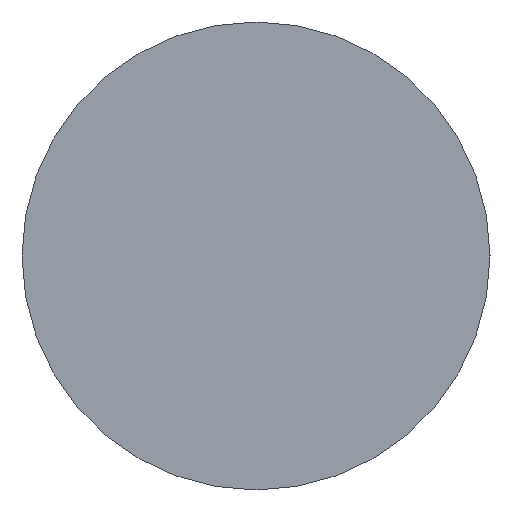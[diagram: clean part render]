
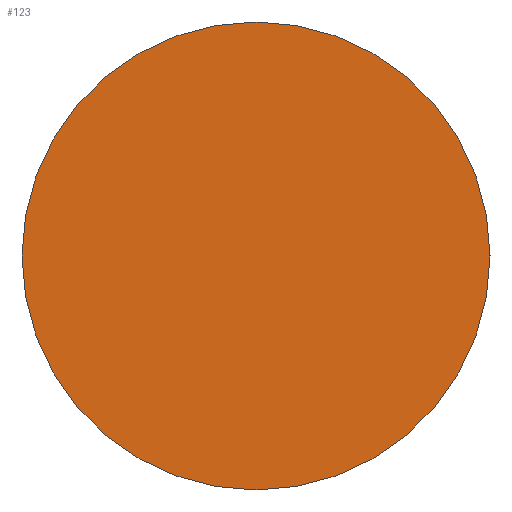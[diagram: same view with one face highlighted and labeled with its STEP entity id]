
A CAD part, left-side view. The second image highlights one B-rep face of the part: STEP entity #123.
In plain terms, the highlighted planar face has unit normal (-1, 0, 0).
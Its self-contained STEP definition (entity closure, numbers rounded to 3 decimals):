
#40 = VERTEX_POINT('',#41);
#41 = CARTESIAN_POINT('',(0.,0.,-150.));
#50 = CYLINDRICAL_SURFACE('',#51,150.);
#51 = AXIS2_PLACEMENT_3D('',#52,#53,#54);
#52 = CARTESIAN_POINT('',(0.,0.,0.));
#53 = DIRECTION('',(-1.,-0.,0.));
#54 = DIRECTION('',(0.,0.,-1.));
#97 = EDGE_CURVE('',#40,#40,#98,.T.);
#98 = SURFACE_CURVE('',#99,(#104,#111),.PCURVE_S1.);
#99 = CIRCLE('',#100,150.);
#100 = AXIS2_PLACEMENT_3D('',#101,#102,#103);
#101 = CARTESIAN_POINT('',(0.,0.,0.));
#102 = DIRECTION('',(1.,-0.,0.));
#103 = DIRECTION('',(0.,0.,-1.));
#104 = PCURVE('',#50,#105);
#105 = DEFINITIONAL_REPRESENTATION('',(#106),#110);
#106 = LINE('',#107,#108);
#107 = CARTESIAN_POINT('',(-0.,0.));
#108 = VECTOR('',#109,1.);
#109 = DIRECTION('',(-1.,0.));
#110 = ( GEOMETRIC_REPRESENTATION_CONTEXT(2) 
PARAMETRIC_REPRESENTATION_CONTEXT() REPRESENTATION_CONTEXT('2D SPACE',''
  ) );
#111 = PCURVE('',#112,#117);
#112 = PLANE('',#113);
#113 = AXIS2_PLACEMENT_3D('',#114,#115,#116);
#114 = CARTESIAN_POINT('',(0.,0.,
    0.));
#115 = DIRECTION('',(1.,0.,0.));
#116 = DIRECTION('',(0.,0.,-1.));
#117 = DEFINITIONAL_REPRESENTATION('',(#118),#122);
#118 = CIRCLE('',#119,150.);
#119 = AXIS2_PLACEMENT_2D('',#120,#121);
#120 = CARTESIAN_POINT('',(0.,0.));
#121 = DIRECTION('',(1.,0.));
#122 = ( GEOMETRIC_REPRESENTATION_CONTEXT(2) 
PARAMETRIC_REPRESENTATION_CONTEXT() REPRESENTATION_CONTEXT('2D SPACE',''
  ) );
#123 = ADVANCED_FACE('',(#124),#112,.F.);
#124 = FACE_BOUND('',#125,.F.);
#125 = EDGE_LOOP('',(#126));
#126 = ORIENTED_EDGE('',*,*,#97,.T.);
